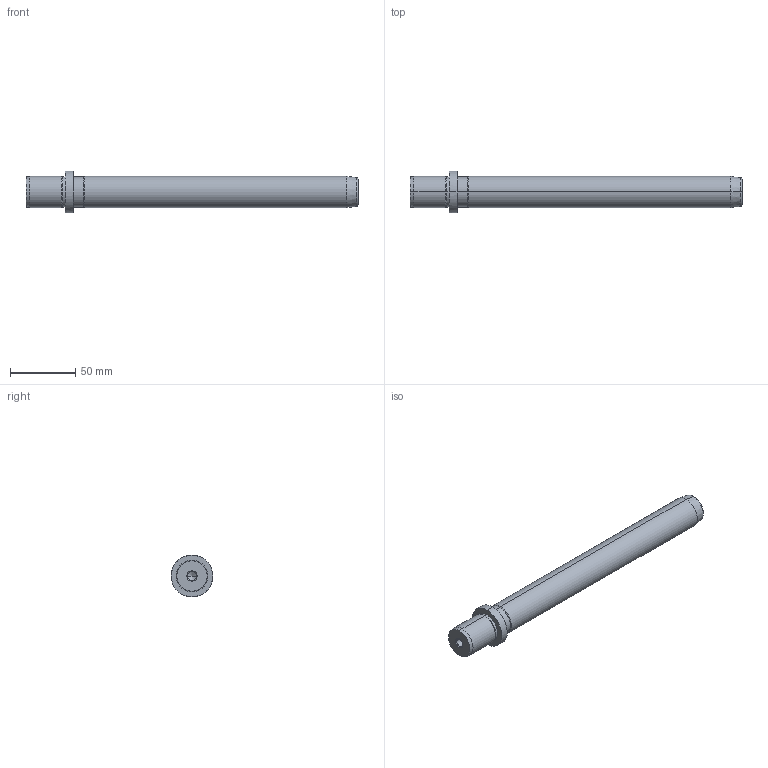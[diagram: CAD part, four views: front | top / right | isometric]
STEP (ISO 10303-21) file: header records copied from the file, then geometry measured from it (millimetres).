
FILE_DESCRIPTION(('CATIA V5 STEP Exchange'),'2;1');
FILE_NAME('C:\Users\Utente\Desktop\IO LAVORO\3D X SITO CF\X SITO\718\718-24x224.stp','2021-01-02T15:15:59+00:00',('none'),('none'),'CATIA Version 5 Release 20 GA (IN-10)','CATIA V5 STEP AP203','none');
FILE_SCHEMA(('CONFIG_CONTROL_DESIGN'));
Length unit declared in the file: millimetre
Products named in the file (1): 718-24x224
Bounding box: 254 x 32 x 32 mm (x, y, z)
Volume: 114475.8 mm3; surface area: 21807.8 mm2
Topology: 1 solids, 1 shells, 36 faces, 100 edges, 66 vertices
Faces by surface type: cone 16, cylinder 14, plane 4, torus 2
Entity records: 1291 total; most frequent: CARTESIAN_POINT 362, ORIENTED_EDGE 192, DIRECTION 157, EDGE_CURVE 96, AXIS2_PLACEMENT_3D 92, VERTEX_POINT 66, CIRCLE 55, EDGE_LOOP 40
